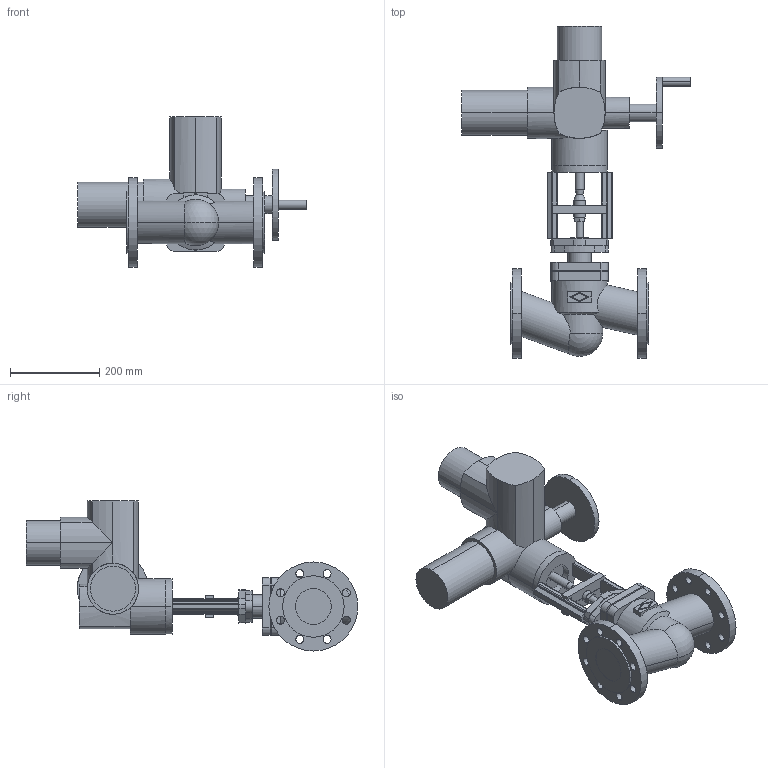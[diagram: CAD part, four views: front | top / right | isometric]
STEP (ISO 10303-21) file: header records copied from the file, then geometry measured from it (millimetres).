
FILE_DESCRIPTION(('OneSpaceDesigner STEP Export'),'2;1');
FILE_NAME('c000003080.stp','2007-01-09T10:39:55',(''),(''),'OneSpace Designer STEP processor for AP214 (Solid Model)','OneSpace Designer 14.00B 27-May-2006 (C) CoCreate Software GmbH','');
FILE_SCHEMA(('AUTOMOTIVE_DESIGN { 1 0 10303 214 1 1 1 1 }'));
Length unit declared in the file: millimetre
Products named in the file (3): 1; 2; 3
Bounding box: 514 x 745.5 x 337 mm (x, y, z)
Volume: 13432758.2 mm3; surface area: 791433 mm2
Topology: 3 solids, 3 shells, 281 faces, 725 edges, 464 vertices
Faces by surface type: cylinder 148, plane 125, cone 6, sphere 2
Entity records: 8414 total; most frequent: CARTESIAN_POINT 1928, ORIENTED_EDGE 1446, DIRECTION 1201, EDGE_CURVE 723, VERTEX_POINT 464, AXIS2_PLACEMENT_3D 406, VECTOR 389, LINE 389
